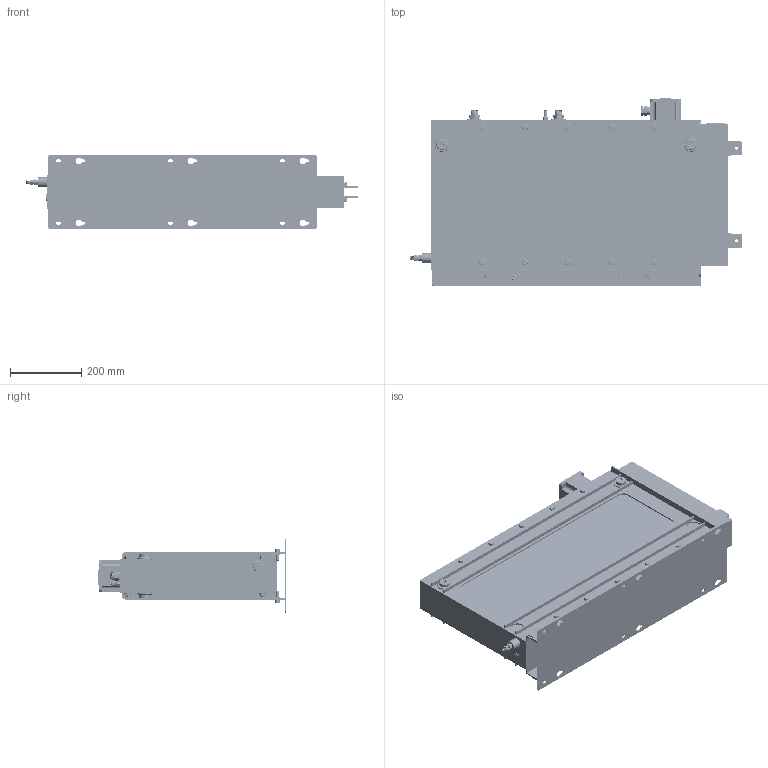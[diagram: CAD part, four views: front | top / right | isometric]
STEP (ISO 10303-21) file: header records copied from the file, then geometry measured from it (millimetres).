
FILE_DESCRIPTION (( 'STEP AP203' ), '1' );
FILE_NAME ('倳昃1- C IP21.STEP', '2024-04-04T15:18:07', ( '' ), ( '' ), 'SwSTEP 2.0', 'SolidWorks 2020', '' );
FILE_SCHEMA (( 'CONFIG_CONTROL_DESIGN' ));
Length unit declared in the file: millimetre
Products named in the file (1): 倳昃1- C IP21
Bounding box: 934.21 x 528 x 207 mm (x, y, z)
Volume: 32652845.6 mm3; surface area: 3076555.3 mm2
Topology: 124 solids, 161 shells, 5909 faces, 14760 edges, 9389 vertices
Faces by surface type: cylinder 2477, plane 2416, torus 416, cone 321, bspline 241, sphere 38
Entity records: 285112 total; most frequent: CARTESIAN_POINT 150779, ORIENTED_EDGE 29312, DIRECTION 26787, EDGE_CURVE 14656, AXIS2_PLACEMENT_3D 9696, VERTEX_POINT 9389, VECTOR 7395, LINE 7395
